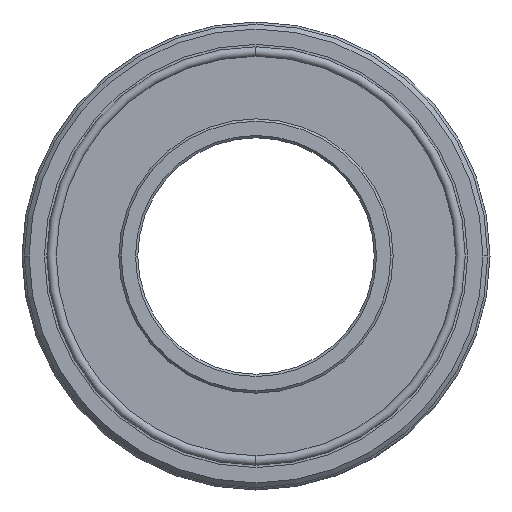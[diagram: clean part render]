
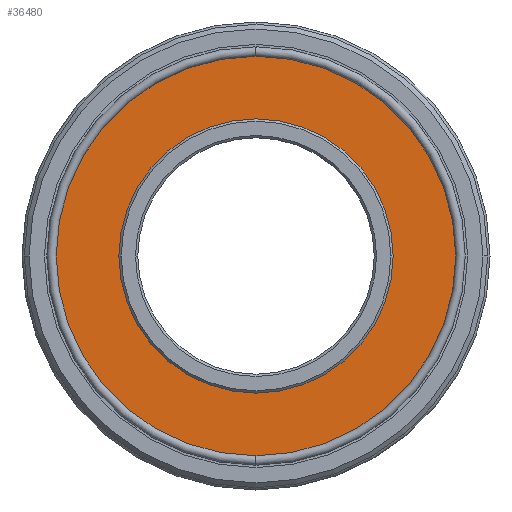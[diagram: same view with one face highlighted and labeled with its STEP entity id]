
A CAD part, left-side view. The second image highlights one B-rep face of the part: STEP entity #36480.
In plain terms, the highlighted planar face has unit normal (-1, 0, 0).
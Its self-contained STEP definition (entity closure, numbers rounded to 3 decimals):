
#6871 = DIRECTION ( 'NONE',  ( 0., -1., 0. ) ) ;
#6872 = DIRECTION ( 'NONE',  ( -1., 0., 0. ) ) ;
#6873 = CARTESIAN_POINT ( 'NONE',  ( 0., 0., 0. ) ) ;
#6874 = AXIS2_PLACEMENT_3D ( 'NONE', #6873, #6872, #6871 ) ;
#6875 = CIRCLE ( 'NONE', #6874, 42.25 ) ;
#6876 = FACE_BOUND ( 'NONE', #36484, .T. ) ;
#6925 = DIRECTION ( 'NONE',  ( 0., -1., 0. ) ) ;
#6926 = DIRECTION ( 'NONE',  ( -1., 0., 0. ) ) ;
#6927 = CARTESIAN_POINT ( 'NONE',  ( 0., 0., 0. ) ) ;
#6928 = AXIS2_PLACEMENT_3D ( 'NONE', #6927, #6926, #6925 ) ;
#6929 = PLANE ( 'NONE',  #6928 ) ;
#6930 = FACE_OUTER_BOUND ( 'NONE', #36491, .T. ) ;
#10342 = CARTESIAN_POINT ( 'NONE',  ( 0., 0., 0. ) ) ;
#10344 = AXIS2_PLACEMENT_3D ( 'NONE', #10342, #10535, #10533 ) ;
#10349 = CIRCLE ( 'NONE', #10344, 29. ) ;
#10533 = DIRECTION ( 'NONE',  ( 0., -1., 0. ) ) ;
#10535 = DIRECTION ( 'NONE',  ( -1., 0., 0. ) ) ;
#17092 = CARTESIAN_POINT ( 'NONE',  ( 0., -42.25, 0. ) ) ;
#17093 = DIRECTION ( 'NONE',  ( 0., -1., 0. ) ) ;
#17094 = DIRECTION ( 'NONE',  ( -1., 0., 0. ) ) ;
#17095 = CARTESIAN_POINT ( 'NONE',  ( 0., 0., 0. ) ) ;
#17096 = AXIS2_PLACEMENT_3D ( 'NONE', #17095, #17094, #17093 ) ;
#17097 = CIRCLE ( 'NONE', #17096, 42.25 ) ;
#17098 = CARTESIAN_POINT ( 'NONE',  ( 0., 42.25, 0. ) ) ;
#21287 = CARTESIAN_POINT ( 'NONE',  ( 0., -29., 0. ) ) ;
#21288 = DIRECTION ( 'NONE',  ( 0., -1., 0. ) ) ;
#21289 = DIRECTION ( 'NONE',  ( -1., 0., 0. ) ) ;
#21290 = CARTESIAN_POINT ( 'NONE',  ( 0., 0., 0. ) ) ;
#21291 = AXIS2_PLACEMENT_3D ( 'NONE', #21290, #21289, #21288 ) ;
#21292 = CIRCLE ( 'NONE', #21291, 29. ) ;
#21309 = CARTESIAN_POINT ( 'NONE',  ( 0., 29., 0. ) ) ;
#32925 = EDGE_CURVE ( 'NONE', #35667, #35661, #10349, .T. ) ;
#34836 = VERTEX_POINT ( 'NONE', #17098 ) ;
#34838 = EDGE_CURVE ( 'NONE', #34839, #34836, #17097, .T. ) ;
#34839 = VERTEX_POINT ( 'NONE', #17092 ) ;
#35661 = VERTEX_POINT ( 'NONE', #21309 ) ;
#35665 = EDGE_CURVE ( 'NONE', #35661, #35667, #21292, .T. ) ;
#35667 = VERTEX_POINT ( 'NONE', #21287 ) ;
#36477 = EDGE_CURVE ( 'NONE', #34836, #34839, #6875, .T. ) ;
#36480 = ADVANCED_FACE ( 'NONE', ( #6876, #6930 ), #6929, .T. ) ;
#36484 = EDGE_LOOP ( 'NONE', ( #36486, #36488 ) ) ;
#36486 = ORIENTED_EDGE ( 'NONE', *, *, #32925, .F. ) ;
#36488 = ORIENTED_EDGE ( 'NONE', *, *, #35665, .F. ) ;
#36491 = EDGE_LOOP ( 'NONE', ( #36493, #36495 ) ) ;
#36493 = ORIENTED_EDGE ( 'NONE', *, *, #34838, .T. ) ;
#36495 = ORIENTED_EDGE ( 'NONE', *, *, #36477, .T. ) ;
